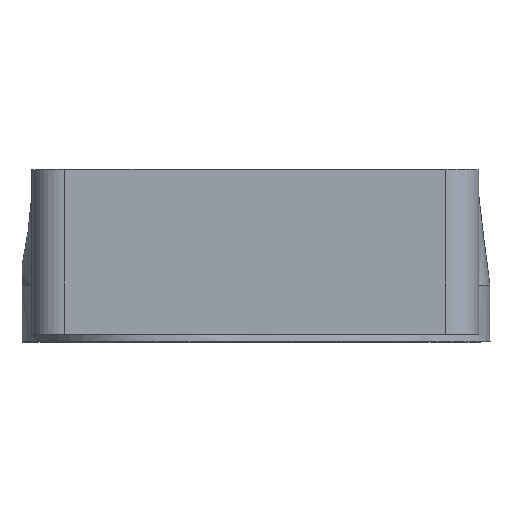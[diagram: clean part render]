
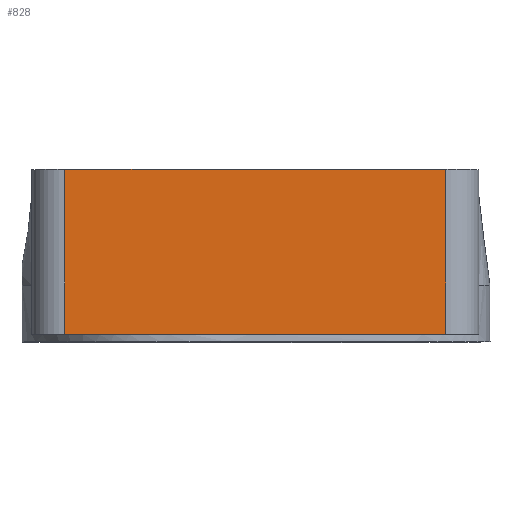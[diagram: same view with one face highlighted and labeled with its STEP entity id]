
A CAD part, top view. The second image highlights one B-rep face of the part: STEP entity #828.
In plain terms, the highlighted planar face has unit normal (0, 0, 1).
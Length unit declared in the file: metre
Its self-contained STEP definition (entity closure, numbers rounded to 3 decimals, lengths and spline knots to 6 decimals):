
#46=PLANE('',#890);
#238=ORIENTED_EDGE('',*,*,#437,.T.);
#239=ORIENTED_EDGE('',*,*,#438,.T.);
#240=ORIENTED_EDGE('',*,*,#382,.T.);
#241=ORIENTED_EDGE('',*,*,#439,.T.);
#382=EDGE_CURVE('',#495,#494,#577,.T.);
#437=EDGE_CURVE('',#536,#537,#597,.T.);
#438=EDGE_CURVE('',#537,#495,#598,.T.);
#439=EDGE_CURVE('',#494,#536,#599,.F.);
#494=VERTEX_POINT('',#2347);
#495=VERTEX_POINT('',#2349);
#536=VERTEX_POINT('',#5272);
#537=VERTEX_POINT('',#5273);
#577=LINE('',#2348,#645);
#597=LINE('',#5271,#665);
#598=LINE('',#5274,#666);
#599=LINE('',#5275,#667);
#645=VECTOR('',#962,1.);
#665=VECTOR('',#1020,1.);
#666=VECTOR('',#1021,1.);
#667=VECTOR('',#1022,1.);
#706=EDGE_LOOP('',(#238,#239,#240,#241));
#765=FACE_BOUND('',#706,.T.);
#828=ADVANCED_FACE('',(#765),#46,.F.);
#890=AXIS2_PLACEMENT_3D('',#5270,#1018,#1019);
#962=DIRECTION('',(-1.,0.,0.));
#1018=DIRECTION('',(0.,0.,-1.));
#1019=DIRECTION('',(-1.,0.,0.));
#1020=DIRECTION('',(1.,0.,0.));
#1021=DIRECTION('',(0.,1.,0.));
#1022=DIRECTION('',(0.,1.,0.));
#2347=CARTESIAN_POINT('',(-0.05164,-0.00951,0.031969));
#2348=CARTESIAN_POINT('',(-0.02852,-0.00951,0.031969));
#2349=CARTESIAN_POINT('',(-0.0054,-0.00951,0.031969));
#5270=CARTESIAN_POINT('',(-0.02852,-0.023512,0.031969));
#5271=CARTESIAN_POINT('',(-0.02852,-0.02951,0.031969));
#5272=CARTESIAN_POINT('',(-0.05164,-0.02951,0.031969));
#5273=CARTESIAN_POINT('',(-0.0054,-0.02951,0.031969));
#5274=CARTESIAN_POINT('',(-0.0054,-0.023512,0.031969));
#5275=CARTESIAN_POINT('',(-0.05164,-0.02951,0.031969));
